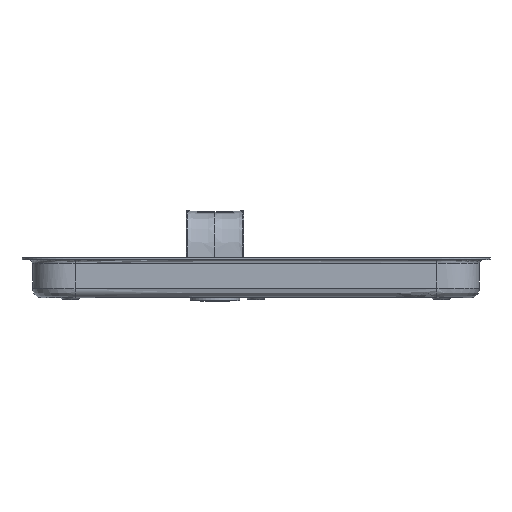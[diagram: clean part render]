
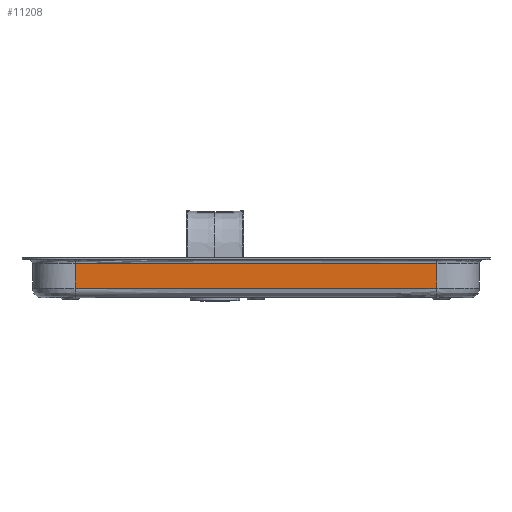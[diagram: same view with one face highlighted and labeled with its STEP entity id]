
A CAD part, left-side view. The second image highlights one B-rep face of the part: STEP entity #11208.
In plain terms, the highlighted free-form (B-spline) face has degree [2, 1] with [3, 2] control points.
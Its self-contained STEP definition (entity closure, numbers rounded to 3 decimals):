
#268=B_SPLINE_SURFACE_WITH_KNOTS('',2,1,((#28302,#28303),(#28304,#28305),
(#28306,#28307)),.UNSPECIFIED.,.F.,.F.,.F.,(3,3),(2,2),(-1.,0.),(0.,2.4),
 .UNSPECIFIED.);
#725=B_SPLINE_CURVE_WITH_KNOTS('',3,(#27476,#27477,#27478,#27479),
 .UNSPECIFIED.,.F.,.F.,(4,4),(0.,18.943),.UNSPECIFIED.);
#743=B_SPLINE_CURVE_WITH_KNOTS('',2,(#28308,#28309,#28310),
 .UNSPECIFIED.,.F.,.F.,(3,3),(0.,18.943),.UNSPECIFIED.);
#1834=LINE('',#28220,#2713);
#1836=LINE('',#28288,#2715);
#2713=VECTOR('',#13595,10.);
#2715=VECTOR('',#13597,10.);
#3297=FACE_OUTER_BOUND('',#3988,.T.);
#3988=EDGE_LOOP('',(#9639,#9640,#9641,#9642));
#5119=VERTEX_POINT('',#27438);
#5120=VERTEX_POINT('',#27475);
#5132=VERTEX_POINT('',#28170);
#5133=VERTEX_POINT('',#28238);
#6609=EDGE_CURVE('',#5120,#5119,#725,.T.);
#6638=EDGE_CURVE('',#5132,#5119,#1834,.T.);
#6641=EDGE_CURVE('',#5120,#5133,#1836,.T.);
#6645=EDGE_CURVE('',#5132,#5133,#743,.T.);
#9639=ORIENTED_EDGE('',*,*,#6645,.T.);
#9640=ORIENTED_EDGE('',*,*,#6641,.F.);
#9641=ORIENTED_EDGE('',*,*,#6609,.T.);
#9642=ORIENTED_EDGE('',*,*,#6638,.F.);
#11208=ADVANCED_FACE('',(#3297),#268,.T.);
#13595=DIRECTION('',(0.,0.,1.));
#13597=DIRECTION('',(0.,0.,-1.));
#27438=CARTESIAN_POINT('',(-112.996,109.085,7.985));
#27475=CARTESIAN_POINT('',(-112.996,-80.347,7.985));
#27476=CARTESIAN_POINT('Ctrl Pts',(-112.996,-80.347,
7.985));
#27477=CARTESIAN_POINT('Ctrl Pts',(-112.996,-17.203,
7.985));
#27478=CARTESIAN_POINT('Ctrl Pts',(-112.996,45.941,7.985));
#27479=CARTESIAN_POINT('Ctrl Pts',(-112.996,109.085,7.985));
#28170=CARTESIAN_POINT('',(-112.996,109.085,-5.015));
#28220=CARTESIAN_POINT('',(-112.996,109.085,-5.015));
#28238=CARTESIAN_POINT('',(-112.996,-80.347,-5.015));
#28288=CARTESIAN_POINT('',(-112.996,-80.347,7.985));
#28302=CARTESIAN_POINT('Ctrl Pts',(-112.996,-80.347,
9.985));
#28303=CARTESIAN_POINT('Ctrl Pts',(-112.996,-80.347,
-14.015));
#28304=CARTESIAN_POINT('Ctrl Pts',(-112.996,14.369,9.985));
#28305=CARTESIAN_POINT('Ctrl Pts',(-112.996,14.369,-14.015));
#28306=CARTESIAN_POINT('Ctrl Pts',(-112.996,109.085,9.985));
#28307=CARTESIAN_POINT('Ctrl Pts',(-112.996,109.085,-14.015));
#28308=CARTESIAN_POINT('Ctrl Pts',(-112.996,109.085,-5.015));
#28309=CARTESIAN_POINT('Ctrl Pts',(-112.996,14.369,-5.015));
#28310=CARTESIAN_POINT('Ctrl Pts',(-112.996,-80.347,
-5.015));
